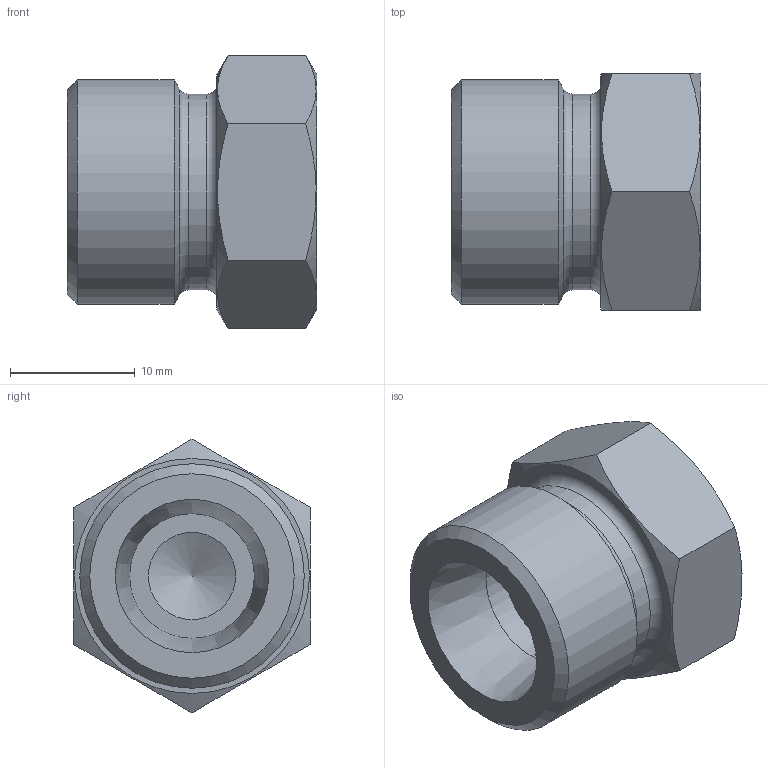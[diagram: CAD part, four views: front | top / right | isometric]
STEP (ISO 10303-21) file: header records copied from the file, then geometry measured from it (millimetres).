
FILE_DESCRIPTION( ( 'Unknown' ), '1' );
FILE_NAME( 'C:/Users/p.nanko/Desktop/3D SR/XROV10S.stp', 'Unknown', ( 'Peter Nanko' ), ( 'Armaturen Arndt' ), 'PSStep 14.0', 'Solid Edge ST4', ' ' );
FILE_SCHEMA( ( 'AUTOMOTIVE_DESIGN { 1 0 10303 214 1 1 1 1 }' ) );
Length unit declared in the file: millimetre
Products named in the file (1): 1
Bounding box: 20 x 19 x 21.94 mm (x, y, z)
Volume: 4296.4 mm3; surface area: 2232 mm2
Topology: 1 solids, 1 shells, 22 faces, 48 edges, 30 vertices
Faces by surface type: plane 10, cone 6, cylinder 4, torus 2
Full cylindrical faces by diameter (mm): 7 x1, 10 x1, 15.7 x1, 18 x1
Entity records: 806 total; most frequent: CARTESIAN_POINT 214, DIRECTION 80, ORIENTED_EDGE 64, AXIS2_PLACEMENT_3D 37, EDGE_LOOP 36, EDGE_CURVE 32, FACE_OUTER_BOUND 28, VERTEX_POINT 27
